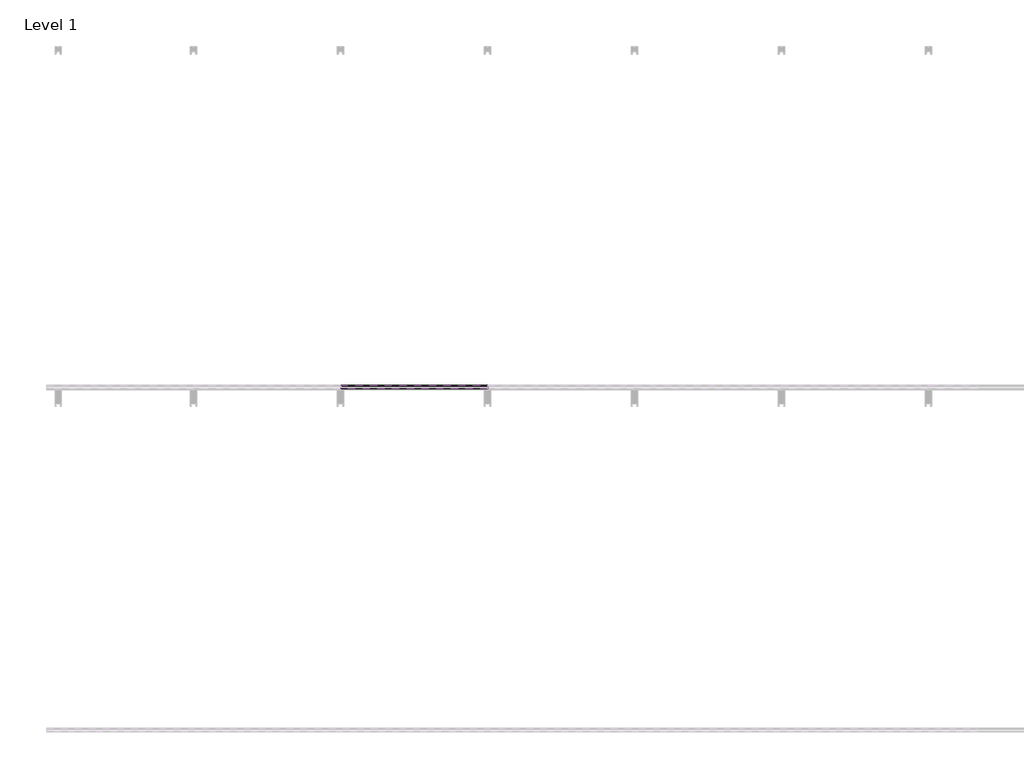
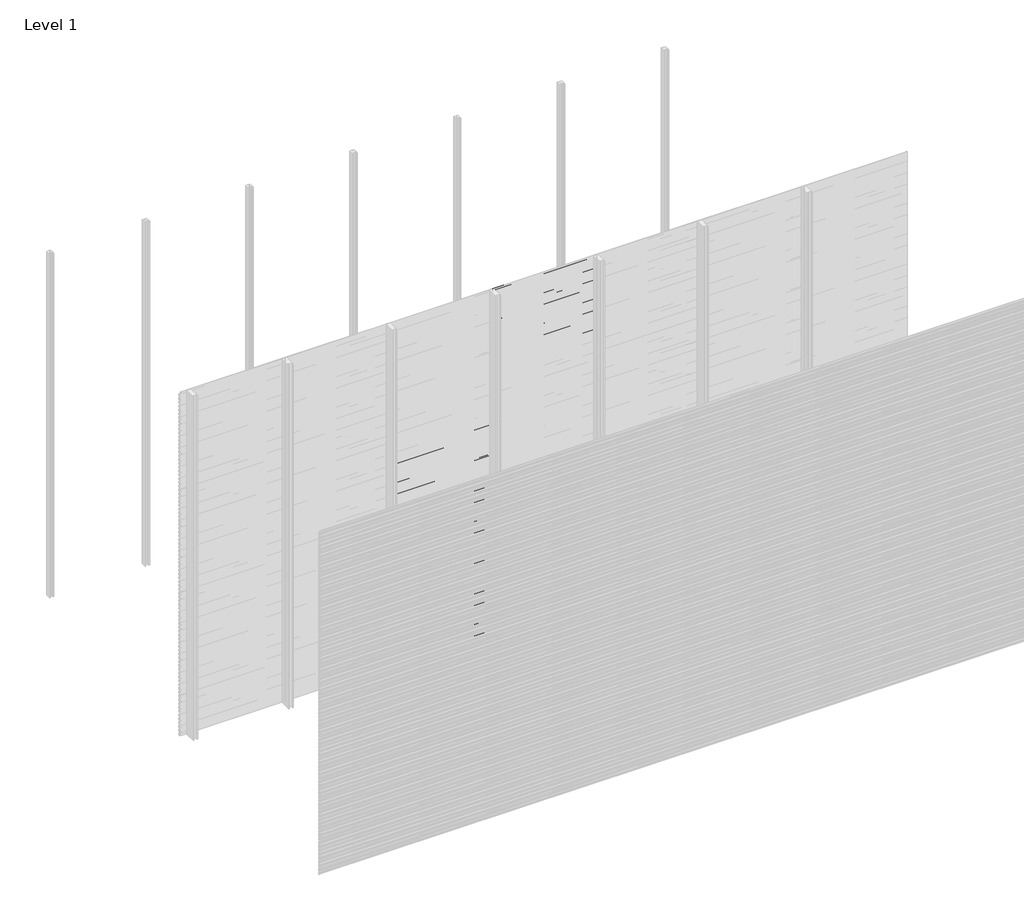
# One storey, part 64 of 96: 77 proxies.
"""IFC4 building model written with IfcOpenShell, lengths in millimetres."""

from ifc_helpers import new_model, si_unit, frame, origin, place, context, project, spatial, polyline, outline, extrude, element, save

model = new_model("IFC4")

# Units and contexts
model_context = context("Model", 3, world=origin())
ifc_project = project(units=[si_unit("LENGTHUNIT", "METRE", prefix="MILLI")], contexts=[model_context])

# Site, building, storey
site = spatial("IfcSite", under=ifc_project)
building = spatial("IfcBuilding", under=site)
storey = spatial("IfcBuildingStorey", under=building, Name="Level 1", Elevation=0.0)

# Proxies
placement = place(None, origin())
element("IfcBuildingElementProxy", 1, Name="Wall Sweeps", at=placement, inside=storey, context=model_context, shape_type="SweptSolid", body=[
    extrude(outline(polyline([(-17977.6, 1806.2655033), (-17977.6, 1791.9779188), (-17982.4114965, 1789.2), (-17982.4114965, 1790.4701706), (-17978.85, 1792.5264016), (-17978.85, 1805.5437382), (-17998.0, 1816.6000799), (-17998.0, 1831.5), (-17996.75, 1831.5), (-17996.75, 1817.3217609), (-17977.6, 1806.2655033)])), frame((1714.2857143, 0.0, 0.0), z_axis=(1.0, 0.0, 0.0), x_axis=(0.0, 1.0, 0.0)), (0.0, 0.0, 1.0), 857.1428571),
])
element("IfcBuildingElementProxy", 2, Name="Wall Sweeps", at=placement, inside=storey, context=model_context, shape_type="SweptSolid", body=[
    extrude(outline(polyline([(-17977.6, 1772.9655033), (-17977.6, 1758.6779188), (-17982.4114965, 1755.9), (-17982.4114965, 1757.1701706), (-17978.85, 1759.2264016), (-17978.85, 1772.2437382), (-17998.0, 1783.3000799), (-17998.0, 1798.2), (-17996.75, 1798.2), (-17996.75, 1784.0217609), (-17977.6, 1772.9655033)])), frame((1714.2857143, 0.0, 0.0), z_axis=(1.0, 0.0, 0.0), x_axis=(0.0, 1.0, 0.0)), (0.0, 0.0, 1.0), 857.1428571),
])
element("IfcBuildingElementProxy", 3, Name="Wall Sweeps", at=placement, inside=storey, context=model_context, shape_type="SweptSolid", body=[
    extrude(outline(polyline([(-17977.6, 1739.6655033), (-17977.6, 1725.3779188), (-17982.4114965, 1722.6), (-17982.4114965, 1723.8701706), (-17978.85, 1725.9264016), (-17978.85, 1738.9437382), (-17998.0, 1750.0000799), (-17998.0, 1764.9), (-17996.75, 1764.9), (-17996.75, 1750.7217609), (-17977.6, 1739.6655033)])), frame((1714.2857143, 0.0, 0.0), z_axis=(1.0, 0.0, 0.0), x_axis=(0.0, 1.0, 0.0)), (0.0, 0.0, 1.0), 857.1428571),
])
element("IfcBuildingElementProxy", 4, Name="Wall Sweeps", at=placement, inside=storey, context=model_context, shape_type="SweptSolid", body=[
    extrude(outline(polyline([(-17977.6, 1706.3655033), (-17977.6, 1692.0779188), (-17982.4114965, 1689.3), (-17982.4114965, 1690.5701706), (-17978.85, 1692.6264016), (-17978.85, 1705.6437382), (-17998.0, 1716.7000799), (-17998.0, 1731.6), (-17996.75, 1731.6), (-17996.75, 1717.4217609), (-17977.6, 1706.3655033)])), frame((1714.2857143, 0.0, 0.0), z_axis=(1.0, 0.0, 0.0), x_axis=(0.0, 1.0, 0.0)), (0.0, 0.0, 1.0), 857.1428571),
])
element("IfcBuildingElementProxy", 5, Name="Wall Sweeps", at=placement, inside=storey, context=model_context, shape_type="SweptSolid", body=[
    extrude(outline(polyline([(-17977.6, 1673.0655033), (-17977.6, 1658.7779188), (-17982.4114965, 1656.0), (-17982.4114965, 1657.2701706), (-17978.85, 1659.3264016), (-17978.85, 1672.3437382), (-17998.0, 1683.4000799), (-17998.0, 1698.3), (-17996.75, 1698.3), (-17996.75, 1684.1217609), (-17977.6, 1673.0655033)])), frame((1714.2857143, 0.0, 0.0), z_axis=(1.0, 0.0, 0.0), x_axis=(0.0, 1.0, 0.0)), (0.0, 0.0, 1.0), 857.1428571),
])
element("IfcBuildingElementProxy", 6, Name="Wall Sweeps", at=placement, inside=storey, context=model_context, shape_type="SweptSolid", body=[
    extrude(outline(polyline([(-17977.6, 1639.7655033), (-17977.6, 1625.4779188), (-17982.4114965, 1622.7), (-17982.4114965, 1623.9701706), (-17978.85, 1626.0264016), (-17978.85, 1639.0437382), (-17998.0, 1650.1000799), (-17998.0, 1665.0), (-17996.75, 1665.0), (-17996.75, 1650.8217609), (-17977.6, 1639.7655033)])), frame((1714.2857143, 0.0, 0.0), z_axis=(1.0, 0.0, 0.0), x_axis=(0.0, 1.0, 0.0)), (0.0, 0.0, 1.0), 857.1428571),
])
element("IfcBuildingElementProxy", 7, Name="Wall Sweeps", at=placement, inside=storey, context=model_context, shape_type="SweptSolid", body=[
    extrude(outline(polyline([(-17977.6, 1606.4655033), (-17977.6, 1592.1779188), (-17982.4114965, 1589.4), (-17982.4114965, 1590.6701706), (-17978.85, 1592.7264016), (-17978.85, 1605.7437382), (-17998.0, 1616.8000799), (-17998.0, 1631.7), (-17996.75, 1631.7), (-17996.75, 1617.5217609), (-17977.6, 1606.4655033)])), frame((1714.2857143, 0.0, 0.0), z_axis=(1.0, 0.0, 0.0), x_axis=(0.0, 1.0, 0.0)), (0.0, 0.0, 1.0), 857.1428571),
])
element("IfcBuildingElementProxy", 8, Name="Wall Sweeps", at=placement, inside=storey, context=model_context, shape_type="SweptSolid", body=[
    extrude(outline(polyline([(-17977.6, 1573.1655033), (-17977.6, 1558.8779188), (-17982.4114965, 1556.1), (-17982.4114965, 1557.3701706), (-17978.85, 1559.4264016), (-17978.85, 1572.4437382), (-17998.0, 1583.5000799), (-17998.0, 1598.4), (-17996.75, 1598.4), (-17996.75, 1584.2217609), (-17977.6, 1573.1655033)])), frame((1714.2857143, 0.0, 0.0), z_axis=(1.0, 0.0, 0.0), x_axis=(0.0, 1.0, 0.0)), (0.0, 0.0, 1.0), 857.1428571),
])
element("IfcBuildingElementProxy", 9, Name="Wall Sweeps", at=placement, inside=storey, context=model_context, shape_type="SweptSolid", body=[
    extrude(outline(polyline([(-17977.6, 1539.8655033), (-17977.6, 1525.5779188), (-17982.4114965, 1522.8), (-17982.4114965, 1524.0701706), (-17978.85, 1526.1264016), (-17978.85, 1539.1437382), (-17998.0, 1550.2000799), (-17998.0, 1565.1), (-17996.75, 1565.1), (-17996.75, 1550.9217609), (-17977.6, 1539.8655033)])), frame((1714.2857143, 0.0, 0.0), z_axis=(1.0, 0.0, 0.0), x_axis=(0.0, 1.0, 0.0)), (0.0, 0.0, 1.0), 857.1428571),
])
element("IfcBuildingElementProxy", 10, Name="Wall Sweeps", at=placement, inside=storey, context=model_context, shape_type="SweptSolid", body=[
    extrude(outline(polyline([(-17977.6, 1506.5655033), (-17977.6, 1492.2779188), (-17982.4114965, 1489.5), (-17982.4114965, 1490.7701706), (-17978.85, 1492.8264016), (-17978.85, 1505.8437382), (-17998.0, 1516.9000799), (-17998.0, 1531.8), (-17996.75, 1531.8), (-17996.75, 1517.6217609), (-17977.6, 1506.5655033)])), frame((1714.2857143, 0.0, 0.0), z_axis=(1.0, 0.0, 0.0), x_axis=(0.0, 1.0, 0.0)), (0.0, 0.0, 1.0), 857.1428571),
])
element("IfcBuildingElementProxy", 11, Name="Wall Sweeps", at=placement, inside=storey, context=model_context, shape_type="SweptSolid", body=[
    extrude(outline(polyline([(-17977.6, 1473.2655033), (-17977.6, 1458.9779188), (-17982.4114965, 1456.2), (-17982.4114965, 1457.4701706), (-17978.85, 1459.5264016), (-17978.85, 1472.5437382), (-17998.0, 1483.6000799), (-17998.0, 1498.5), (-17996.75, 1498.5), (-17996.75, 1484.3217609), (-17977.6, 1473.2655033)])), frame((1714.2857143, 0.0, 0.0), z_axis=(1.0, 0.0, 0.0), x_axis=(0.0, 1.0, 0.0)), (0.0, 0.0, 1.0), 857.1428571),
])
element("IfcBuildingElementProxy", 12, Name="Wall Sweeps", at=placement, inside=storey, context=model_context, shape_type="SweptSolid", body=[
    extrude(outline(polyline([(-17977.6, 1439.9655033), (-17977.6, 1425.6779188), (-17982.4114965, 1422.9), (-17982.4114965, 1424.1701706), (-17978.85, 1426.2264016), (-17978.85, 1439.2437382), (-17998.0, 1450.3000799), (-17998.0, 1465.2), (-17996.75, 1465.2), (-17996.75, 1451.0217609), (-17977.6, 1439.9655033)])), frame((1714.2857143, 0.0, 0.0), z_axis=(1.0, 0.0, 0.0), x_axis=(0.0, 1.0, 0.0)), (0.0, 0.0, 1.0), 857.1428571),
])
element("IfcBuildingElementProxy", 13, Name="Wall Sweeps", at=placement, inside=storey, context=model_context, shape_type="SweptSolid", body=[
    extrude(outline(polyline([(-17977.6, 1406.6655033), (-17977.6, 1392.3779188), (-17982.4114965, 1389.6), (-17982.4114965, 1390.8701706), (-17978.85, 1392.9264016), (-17978.85, 1405.9437382), (-17998.0, 1417.0000799), (-17998.0, 1431.9), (-17996.75, 1431.9), (-17996.75, 1417.7217609), (-17977.6, 1406.6655033)])), frame((1714.2857143, 0.0, 0.0), z_axis=(1.0, 0.0, 0.0), x_axis=(0.0, 1.0, 0.0)), (0.0, 0.0, 1.0), 857.1428571),
])
element("IfcBuildingElementProxy", 14, Name="Wall Sweeps", at=placement, inside=storey, context=model_context, shape_type="SweptSolid", body=[
    extrude(outline(polyline([(-17977.6, 1373.3655033), (-17977.6, 1359.0779188), (-17982.4114965, 1356.3), (-17982.4114965, 1357.5701706), (-17978.85, 1359.6264016), (-17978.85, 1372.6437382), (-17998.0, 1383.7000799), (-17998.0, 1398.6), (-17996.75, 1398.6), (-17996.75, 1384.4217609), (-17977.6, 1373.3655033)])), frame((1714.2857143, 0.0, 0.0), z_axis=(1.0, 0.0, 0.0), x_axis=(0.0, 1.0, 0.0)), (0.0, 0.0, 1.0), 857.1428571),
])
element("IfcBuildingElementProxy", 15, Name="Wall Sweeps", at=placement, inside=storey, context=model_context, shape_type="SweptSolid", body=[
    extrude(outline(polyline([(-17977.6, 1340.0655033), (-17977.6, 1325.7779188), (-17982.4114965, 1323.0), (-17982.4114965, 1324.2701706), (-17978.85, 1326.3264016), (-17978.85, 1339.3437382), (-17998.0, 1350.4000799), (-17998.0, 1365.3), (-17996.75, 1365.3), (-17996.75, 1351.1217609), (-17977.6, 1340.0655033)])), frame((1714.2857143, 0.0, 0.0), z_axis=(1.0, 0.0, 0.0), x_axis=(0.0, 1.0, 0.0)), (0.0, 0.0, 1.0), 857.1428571),
])
element("IfcBuildingElementProxy", 16, Name="Wall Sweeps", at=placement, inside=storey, context=model_context, shape_type="SweptSolid", body=[
    extrude(outline(polyline([(-17977.6, 1306.7655033), (-17977.6, 1292.4779188), (-17982.4114965, 1289.7), (-17982.4114965, 1290.9701706), (-17978.85, 1293.0264016), (-17978.85, 1306.0437382), (-17998.0, 1317.1000799), (-17998.0, 1332.0), (-17996.75, 1332.0), (-17996.75, 1317.8217609), (-17977.6, 1306.7655033)])), frame((1714.2857143, 0.0, 0.0), z_axis=(1.0, 0.0, 0.0), x_axis=(0.0, 1.0, 0.0)), (0.0, 0.0, 1.0), 857.1428571),
])
element("IfcBuildingElementProxy", 17, Name="Wall Sweeps", at=placement, inside=storey, context=model_context, shape_type="SweptSolid", body=[
    extrude(outline(polyline([(-17977.6, 1273.4655033), (-17977.6, 1259.1779188), (-17982.4114965, 1256.4), (-17982.4114965, 1257.6701706), (-17978.85, 1259.7264016), (-17978.85, 1272.7437382), (-17998.0, 1283.8000799), (-17998.0, 1298.7), (-17996.75, 1298.7), (-17996.75, 1284.5217609), (-17977.6, 1273.4655033)])), frame((1714.2857143, 0.0, 0.0), z_axis=(1.0, 0.0, 0.0), x_axis=(0.0, 1.0, 0.0)), (0.0, 0.0, 1.0), 857.1428571),
])
element("IfcBuildingElementProxy", 18, Name="Wall Sweeps", at=placement, inside=storey, context=model_context, shape_type="SweptSolid", body=[
    extrude(outline(polyline([(-17977.6, 1240.1655033), (-17977.6, 1225.8779188), (-17982.4114965, 1223.1), (-17982.4114965, 1224.3701706), (-17978.85, 1226.4264016), (-17978.85, 1239.4437382), (-17998.0, 1250.5000799), (-17998.0, 1265.4), (-17996.75, 1265.4), (-17996.75, 1251.2217609), (-17977.6, 1240.1655033)])), frame((1714.2857143, 0.0, 0.0), z_axis=(1.0, 0.0, 0.0), x_axis=(0.0, 1.0, 0.0)), (0.0, 0.0, 1.0), 857.1428571),
])
element("IfcBuildingElementProxy", 19, Name="Wall Sweeps", at=placement, inside=storey, context=model_context, shape_type="SweptSolid", body=[
    extrude(outline(polyline([(-17977.6, 1206.8655033), (-17977.6, 1192.5779188), (-17982.4114965, 1189.8), (-17982.4114965, 1191.0701706), (-17978.85, 1193.1264016), (-17978.85, 1206.1437382), (-17998.0, 1217.2000799), (-17998.0, 1232.1), (-17996.75, 1232.1), (-17996.75, 1217.9217609), (-17977.6, 1206.8655033)])), frame((1714.2857143, 0.0, 0.0), z_axis=(1.0, 0.0, 0.0), x_axis=(0.0, 1.0, 0.0)), (0.0, 0.0, 1.0), 857.1428571),
])
element("IfcBuildingElementProxy", 20, Name="Wall Sweeps", at=placement, inside=storey, context=model_context, shape_type="SweptSolid", body=[
    extrude(outline(polyline([(-17977.6, 1173.5655033), (-17977.6, 1159.2779188), (-17982.4114965, 1156.5), (-17982.4114965, 1157.7701706), (-17978.85, 1159.8264016), (-17978.85, 1172.8437382), (-17998.0, 1183.9000799), (-17998.0, 1198.8), (-17996.75, 1198.8), (-17996.75, 1184.6217609), (-17977.6, 1173.5655033)])), frame((1714.2857143, 0.0, 0.0), z_axis=(1.0, 0.0, 0.0), x_axis=(0.0, 1.0, 0.0)), (0.0, 0.0, 1.0), 857.1428571),
])
element("IfcBuildingElementProxy", 21, Name="Wall Sweeps", at=placement, inside=storey, context=model_context, shape_type="SweptSolid", body=[
    extrude(outline(polyline([(-17977.6, 1140.2655033), (-17977.6, 1125.9779188), (-17982.4114965, 1123.2), (-17982.4114965, 1124.4701706), (-17978.85, 1126.5264016), (-17978.85, 1139.5437382), (-17998.0, 1150.6000799), (-17998.0, 1165.5), (-17996.75, 1165.5), (-17996.75, 1151.3217609), (-17977.6, 1140.2655033)])), frame((1714.2857143, 0.0, 0.0), z_axis=(1.0, 0.0, 0.0), x_axis=(0.0, 1.0, 0.0)), (0.0, 0.0, 1.0), 857.1428571),
])
element("IfcBuildingElementProxy", 22, Name="Wall Sweeps", at=placement, inside=storey, context=model_context, shape_type="SweptSolid", body=[
    extrude(outline(polyline([(-17977.6, 1106.9655033), (-17977.6, 1092.6779188), (-17982.4114965, 1089.9), (-17982.4114965, 1091.1701706), (-17978.85, 1093.2264016), (-17978.85, 1106.2437382), (-17998.0, 1117.3000799), (-17998.0, 1132.2), (-17996.75, 1132.2), (-17996.75, 1118.0217609), (-17977.6, 1106.9655033)])), frame((1714.2857143, 0.0, 0.0), z_axis=(1.0, 0.0, 0.0), x_axis=(0.0, 1.0, 0.0)), (0.0, 0.0, 1.0), 857.1428571),
])
element("IfcBuildingElementProxy", 23, Name="Wall Sweeps", at=placement, inside=storey, context=model_context, shape_type="SweptSolid", body=[
    extrude(outline(polyline([(-17977.6, 1073.6655033), (-17977.6, 1059.3779188), (-17982.4114965, 1056.6), (-17982.4114965, 1057.8701706), (-17978.85, 1059.9264016), (-17978.85, 1072.9437382), (-17998.0, 1084.0000799), (-17998.0, 1098.9), (-17996.75, 1098.9), (-17996.75, 1084.7217609), (-17977.6, 1073.6655033)])), frame((1714.2857143, 0.0, 0.0), z_axis=(1.0, 0.0, 0.0), x_axis=(0.0, 1.0, 0.0)), (0.0, 0.0, 1.0), 857.1428571),
])
element("IfcBuildingElementProxy", 24, Name="Wall Sweeps", at=placement, inside=storey, context=model_context, shape_type="SweptSolid", body=[
    extrude(outline(polyline([(-17977.6, 1040.3655033), (-17977.6, 1026.0779188), (-17982.4114965, 1023.3), (-17982.4114965, 1024.5701706), (-17978.85, 1026.6264016), (-17978.85, 1039.6437382), (-17998.0, 1050.7000799), (-17998.0, 1065.6), (-17996.75, 1065.6), (-17996.75, 1051.4217609), (-17977.6, 1040.3655033)])), frame((1714.2857143, 0.0, 0.0), z_axis=(1.0, 0.0, 0.0), x_axis=(0.0, 1.0, 0.0)), (0.0, 0.0, 1.0), 857.1428571),
])
element("IfcBuildingElementProxy", 25, Name="Wall Sweeps", at=placement, inside=storey, context=model_context, shape_type="SweptSolid", body=[
    extrude(outline(polyline([(-17977.6, 1007.0655033), (-17977.6, 992.7779188), (-17982.4114965, 990.0), (-17982.4114965, 991.2701706), (-17978.85, 993.3264016), (-17978.85, 1006.3437382), (-17998.0, 1017.4000799), (-17998.0, 1032.3), (-17996.75, 1032.3), (-17996.75, 1018.1217609), (-17977.6, 1007.0655033)])), frame((1714.2857143, 0.0, 0.0), z_axis=(1.0, 0.0, 0.0), x_axis=(0.0, 1.0, 0.0)), (0.0, 0.0, 1.0), 857.1428571),
])
element("IfcBuildingElementProxy", 26, Name="Wall Sweeps", at=placement, inside=storey, context=model_context, shape_type="SweptSolid", body=[
    extrude(outline(polyline([(-17977.6, 973.7655033), (-17977.6, 959.4779188), (-17982.4114965, 956.7), (-17982.4114965, 957.9701706), (-17978.85, 960.0264016), (-17978.85, 973.0437382), (-17998.0, 984.1000799), (-17998.0, 999.0), (-17996.75, 999.0), (-17996.75, 984.8217609), (-17977.6, 973.7655033)])), frame((1714.2857143, 0.0, 0.0), z_axis=(1.0, 0.0, 0.0), x_axis=(0.0, 1.0, 0.0)), (0.0, 0.0, 1.0), 857.1428571),
])
element("IfcBuildingElementProxy", 27, Name="Wall Sweeps", at=placement, inside=storey, context=model_context, shape_type="SweptSolid", body=[
    extrude(outline(polyline([(-17977.6, 940.4655033), (-17977.6, 926.1779188), (-17982.4114965, 923.4), (-17982.4114965, 924.6701706), (-17978.85, 926.7264016), (-17978.85, 939.7437382), (-17998.0, 950.8000799), (-17998.0, 965.7), (-17996.75, 965.7), (-17996.75, 951.5217609), (-17977.6, 940.4655033)])), frame((1714.2857143, 0.0, 0.0), z_axis=(1.0, 0.0, 0.0), x_axis=(0.0, 1.0, 0.0)), (0.0, 0.0, 1.0), 857.1428571),
])
element("IfcBuildingElementProxy", 28, Name="Wall Sweeps", at=placement, inside=storey, context=model_context, shape_type="SweptSolid", body=[
    extrude(outline(polyline([(-17977.6, 907.1655033), (-17977.6, 892.8779188), (-17982.4114965, 890.1), (-17982.4114965, 891.3701706), (-17978.85, 893.4264016), (-17978.85, 906.4437382), (-17998.0, 917.5000799), (-17998.0, 932.4), (-17996.75, 932.4), (-17996.75, 918.2217609), (-17977.6, 907.1655033)])), frame((1714.2857143, 0.0, 0.0), z_axis=(1.0, 0.0, 0.0), x_axis=(0.0, 1.0, 0.0)), (0.0, 0.0, 1.0), 857.1428571),
])
element("IfcBuildingElementProxy", 29, Name="Wall Sweeps", at=placement, inside=storey, context=model_context, shape_type="SweptSolid", body=[
    extrude(outline(polyline([(-17977.6, 873.8655033), (-17977.6, 859.5779188), (-17982.4114965, 856.8), (-17982.4114965, 858.0701706), (-17978.85, 860.1264016), (-17978.85, 873.1437382), (-17998.0, 884.2000799), (-17998.0, 899.1), (-17996.75, 899.1), (-17996.75, 884.9217609), (-17977.6, 873.8655033)])), frame((1714.2857143, 0.0, 0.0), z_axis=(1.0, 0.0, 0.0), x_axis=(0.0, 1.0, 0.0)), (0.0, 0.0, 1.0), 857.1428571),
])
element("IfcBuildingElementProxy", 30, Name="Wall Sweeps", at=placement, inside=storey, context=model_context, shape_type="SweptSolid", body=[
    extrude(outline(polyline([(-17977.6, 840.5655033), (-17977.6, 826.2779188), (-17982.4114965, 823.5), (-17982.4114965, 824.7701706), (-17978.85, 826.8264016), (-17978.85, 839.8437382), (-17998.0, 850.9000799), (-17998.0, 865.8), (-17996.75, 865.8), (-17996.75, 851.6217609), (-17977.6, 840.5655033)])), frame((1714.2857143, 0.0, 0.0), z_axis=(1.0, 0.0, 0.0), x_axis=(0.0, 1.0, 0.0)), (0.0, 0.0, 1.0), 857.1428571),
])
element("IfcBuildingElementProxy", 31, Name="Wall Sweeps", at=placement, inside=storey, context=model_context, shape_type="SweptSolid", body=[
    extrude(outline(polyline([(-17977.6, 807.2655033), (-17977.6, 792.9779188), (-17982.4114965, 790.2), (-17982.4114965, 791.4701706), (-17978.85, 793.5264016), (-17978.85, 806.5437382), (-17998.0, 817.6000799), (-17998.0, 832.5), (-17996.75, 832.5), (-17996.75, 818.3217609), (-17977.6, 807.2655033)])), frame((1714.2857143, 0.0, 0.0), z_axis=(1.0, 0.0, 0.0), x_axis=(0.0, 1.0, 0.0)), (0.0, 0.0, 1.0), 857.1428571),
])
element("IfcBuildingElementProxy", 32, Name="Wall Sweeps", at=placement, inside=storey, context=model_context, shape_type="SweptSolid", body=[
    extrude(outline(polyline([(-17977.6, 773.9655033), (-17977.6, 759.6779188), (-17982.4114965, 756.9), (-17982.4114965, 758.1701706), (-17978.85, 760.2264016), (-17978.85, 773.2437382), (-17998.0, 784.3000799), (-17998.0, 799.2), (-17996.75, 799.2), (-17996.75, 785.0217609), (-17977.6, 773.9655033)])), frame((1714.2857143, 0.0, 0.0), z_axis=(1.0, 0.0, 0.0), x_axis=(0.0, 1.0, 0.0)), (0.0, 0.0, 1.0), 857.1428571),
])
element("IfcBuildingElementProxy", 33, Name="Wall Sweeps", at=placement, inside=storey, context=model_context, shape_type="SweptSolid", body=[
    extrude(outline(polyline([(-17977.6, 740.6655033), (-17977.6, 726.3779188), (-17982.4114965, 723.6), (-17982.4114965, 724.8701706), (-17978.85, 726.9264016), (-17978.85, 739.9437382), (-17998.0, 751.0000799), (-17998.0, 765.9), (-17996.75, 765.9), (-17996.75, 751.7217609), (-17977.6, 740.6655033)])), frame((1714.2857143, 0.0, 0.0), z_axis=(1.0, 0.0, 0.0), x_axis=(0.0, 1.0, 0.0)), (0.0, 0.0, 1.0), 857.1428571),
])
element("IfcBuildingElementProxy", 34, Name="Wall Sweeps", at=placement, inside=storey, context=model_context, shape_type="SweptSolid", body=[
    extrude(outline(polyline([(-17977.6, 707.3655033), (-17977.6, 693.0779188), (-17982.4114965, 690.3), (-17982.4114965, 691.5701706), (-17978.85, 693.6264016), (-17978.85, 706.6437382), (-17998.0, 717.7000799), (-17998.0, 732.6), (-17996.75, 732.6), (-17996.75, 718.4217609), (-17977.6, 707.3655033)])), frame((1714.2857143, 0.0, 0.0), z_axis=(1.0, 0.0, 0.0), x_axis=(0.0, 1.0, 0.0)), (0.0, 0.0, 1.0), 857.1428571),
])
element("IfcBuildingElementProxy", 35, Name="Wall Sweeps", at=placement, inside=storey, context=model_context, shape_type="SweptSolid", body=[
    extrude(outline(polyline([(-17977.6, 674.0655033), (-17977.6, 659.7779188), (-17982.4114965, 657.0), (-17982.4114965, 658.2701706), (-17978.85, 660.3264016), (-17978.85, 673.3437382), (-17998.0, 684.4000799), (-17998.0, 699.3), (-17996.75, 699.3), (-17996.75, 685.1217609), (-17977.6, 674.0655033)])), frame((1714.2857143, 0.0, 0.0), z_axis=(1.0, 0.0, 0.0), x_axis=(0.0, 1.0, 0.0)), (0.0, 0.0, 1.0), 857.1428571),
])
element("IfcBuildingElementProxy", 36, Name="Wall Sweeps", at=placement, inside=storey, context=model_context, shape_type="SweptSolid", body=[
    extrude(outline(polyline([(-17977.6, 640.7655033), (-17977.6, 626.4779188), (-17982.4114965, 623.7), (-17982.4114965, 624.9701706), (-17978.85, 627.0264016), (-17978.85, 640.0437382), (-17998.0, 651.1000799), (-17998.0, 666.0), (-17996.75, 666.0), (-17996.75, 651.8217609), (-17977.6, 640.7655033)])), frame((1714.2857143, 0.0, 0.0), z_axis=(1.0, 0.0, 0.0), x_axis=(0.0, 1.0, 0.0)), (0.0, 0.0, 1.0), 857.1428571),
])
element("IfcBuildingElementProxy", 37, Name="Wall Sweeps", at=placement, inside=storey, context=model_context, shape_type="SweptSolid", body=[
    extrude(outline(polyline([(-17977.6, 607.4655033), (-17977.6, 593.1779188), (-17982.4114965, 590.4), (-17982.4114965, 591.6701706), (-17978.85, 593.7264016), (-17978.85, 606.7437382), (-17998.0, 617.8000799), (-17998.0, 632.7), (-17996.75, 632.7), (-17996.75, 618.5217609), (-17977.6, 607.4655033)])), frame((1714.2857143, 0.0, 0.0), z_axis=(1.0, 0.0, 0.0), x_axis=(0.0, 1.0, 0.0)), (0.0, 0.0, 1.0), 857.1428571),
])
element("IfcBuildingElementProxy", 38, Name="Wall Sweeps", at=placement, inside=storey, context=model_context, shape_type="SweptSolid", body=[
    extrude(outline(polyline([(-17977.6, 574.1655033), (-17977.6, 559.8779188), (-17982.4114965, 557.1), (-17982.4114965, 558.3701706), (-17978.85, 560.4264016), (-17978.85, 573.4437382), (-17998.0, 584.5000799), (-17998.0, 599.4), (-17996.75, 599.4), (-17996.75, 585.2217609), (-17977.6, 574.1655033)])), frame((1714.2857143, 0.0, 0.0), z_axis=(1.0, 0.0, 0.0), x_axis=(0.0, 1.0, 0.0)), (0.0, 0.0, 1.0), 857.1428571),
])
element("IfcBuildingElementProxy", 39, Name="Wall Sweeps", at=placement, inside=storey, context=model_context, shape_type="SweptSolid", body=[
    extrude(outline(polyline([(-17977.6, 540.8655033), (-17977.6, 526.5779188), (-17982.4114965, 523.8), (-17982.4114965, 525.0701706), (-17978.85, 527.1264016), (-17978.85, 540.1437382), (-17998.0, 551.2000799), (-17998.0, 566.1), (-17996.75, 566.1), (-17996.75, 551.9217609), (-17977.6, 540.8655033)])), frame((1714.2857143, 0.0, 0.0), z_axis=(1.0, 0.0, 0.0), x_axis=(0.0, 1.0, 0.0)), (0.0, 0.0, 1.0), 857.1428571),
])
element("IfcBuildingElementProxy", 40, Name="Wall Sweeps", at=placement, inside=storey, context=model_context, shape_type="SweptSolid", body=[
    extrude(outline(polyline([(-17977.6, 507.5655033), (-17977.6, 493.2779188), (-17982.4114965, 490.5), (-17982.4114965, 491.7701706), (-17978.85, 493.8264016), (-17978.85, 506.8437382), (-17998.0, 517.9000799), (-17998.0, 532.8), (-17996.75, 532.8), (-17996.75, 518.6217609), (-17977.6, 507.5655033)])), frame((1714.2857143, 0.0, 0.0), z_axis=(1.0, 0.0, 0.0), x_axis=(0.0, 1.0, 0.0)), (0.0, 0.0, 1.0), 857.1428571),
])
element("IfcBuildingElementProxy", 41, Name="Wall Sweeps", at=placement, inside=storey, context=model_context, shape_type="SweptSolid", body=[
    extrude(outline(polyline([(-17977.6, 474.2655033), (-17977.6, 459.9779188), (-17982.4114965, 457.2), (-17982.4114965, 458.4701706), (-17978.85, 460.5264016), (-17978.85, 473.5437382), (-17998.0, 484.6000799), (-17998.0, 499.5), (-17996.75, 499.5), (-17996.75, 485.3217609), (-17977.6, 474.2655033)])), frame((1714.2857143, 0.0, 0.0), z_axis=(1.0, 0.0, 0.0), x_axis=(0.0, 1.0, 0.0)), (0.0, 0.0, 1.0), 857.1428571),
])
element("IfcBuildingElementProxy", 42, Name="Wall Sweeps", at=placement, inside=storey, context=model_context, shape_type="SweptSolid", body=[
    extrude(outline(polyline([(-17977.6, 440.9655033), (-17977.6, 426.6779188), (-17982.4114965, 423.9), (-17982.4114965, 425.1701706), (-17978.85, 427.2264016), (-17978.85, 440.2437382), (-17998.0, 451.3000799), (-17998.0, 466.2), (-17996.75, 466.2), (-17996.75, 452.0217609), (-17977.6, 440.9655033)])), frame((1714.2857143, 0.0, 0.0), z_axis=(1.0, 0.0, 0.0), x_axis=(0.0, 1.0, 0.0)), (0.0, 0.0, 1.0), 857.1428571),
])
element("IfcBuildingElementProxy", 43, Name="Wall Sweeps", at=placement, inside=storey, context=model_context, shape_type="SweptSolid", body=[
    extrude(outline(polyline([(-17977.6, 407.6655033), (-17977.6, 393.3779188), (-17982.4114965, 390.6), (-17982.4114965, 391.8701706), (-17978.85, 393.9264016), (-17978.85, 406.9437382), (-17998.0, 418.0000799), (-17998.0, 432.9), (-17996.75, 432.9), (-17996.75, 418.7217609), (-17977.6, 407.6655033)])), frame((1714.2857143, 0.0, 0.0), z_axis=(1.0, 0.0, 0.0), x_axis=(0.0, 1.0, 0.0)), (0.0, 0.0, 1.0), 857.1428571),
])
element("IfcBuildingElementProxy", 44, Name="Wall Sweeps", at=placement, inside=storey, context=model_context, shape_type="SweptSolid", body=[
    extrude(outline(polyline([(-17977.6, 374.3655033), (-17977.6, 360.0779188), (-17982.4114965, 357.3), (-17982.4114965, 358.5701706), (-17978.85, 360.6264016), (-17978.85, 373.6437382), (-17998.0, 384.7000799), (-17998.0, 399.6), (-17996.75, 399.6), (-17996.75, 385.4217609), (-17977.6, 374.3655033)])), frame((1714.2857143, 0.0, 0.0), z_axis=(1.0, 0.0, 0.0), x_axis=(0.0, 1.0, 0.0)), (0.0, 0.0, 1.0), 857.1428571),
])
element("IfcBuildingElementProxy", 45, Name="Wall Sweeps", at=placement, inside=storey, context=model_context, shape_type="SweptSolid", body=[
    extrude(outline(polyline([(-17977.6, 341.0655033), (-17977.6, 326.7779188), (-17982.4114965, 324.0), (-17982.4114965, 325.2701706), (-17978.85, 327.3264016), (-17978.85, 340.3437382), (-17998.0, 351.4000799), (-17998.0, 366.3), (-17996.75, 366.3), (-17996.75, 352.1217609), (-17977.6, 341.0655033)])), frame((1714.2857143, 0.0, 0.0), z_axis=(1.0, 0.0, 0.0), x_axis=(0.0, 1.0, 0.0)), (0.0, 0.0, 1.0), 857.1428571),
])
element("IfcBuildingElementProxy", 46, Name="Wall Sweeps", at=placement, inside=storey, context=model_context, shape_type="SweptSolid", body=[
    extrude(outline(polyline([(-17977.6, 307.7655033), (-17977.6, 293.4779188), (-17982.4114965, 290.7), (-17982.4114965, 291.9701706), (-17978.85, 294.0264016), (-17978.85, 307.0437382), (-17998.0, 318.1000799), (-17998.0, 333.0), (-17996.75, 333.0), (-17996.75, 318.8217609), (-17977.6, 307.7655033)])), frame((1714.2857143, 0.0, 0.0), z_axis=(1.0, 0.0, 0.0), x_axis=(0.0, 1.0, 0.0)), (0.0, 0.0, 1.0), 857.1428571),
])
element("IfcBuildingElementProxy", 47, Name="Wall Sweeps", at=placement, inside=storey, context=model_context, shape_type="SweptSolid", body=[
    extrude(outline(polyline([(-17977.6, 274.4655033), (-17977.6, 260.1779188), (-17982.4114965, 257.4), (-17982.4114965, 258.6701706), (-17978.85, 260.7264016), (-17978.85, 273.7437382), (-17998.0, 284.8000799), (-17998.0, 299.7), (-17996.75, 299.7), (-17996.75, 285.5217609), (-17977.6, 274.4655033)])), frame((1714.2857143, 0.0, 0.0), z_axis=(1.0, 0.0, 0.0), x_axis=(0.0, 1.0, 0.0)), (0.0, 0.0, 1.0), 857.1428571),
])
element("IfcBuildingElementProxy", 48, Name="Wall Sweeps", at=placement, inside=storey, context=model_context, shape_type="SweptSolid", body=[
    extrude(outline(polyline([(-17977.6, 241.1655033), (-17977.6, 226.8779188), (-17982.4114965, 224.1), (-17982.4114965, 225.3701706), (-17978.85, 227.4264016), (-17978.85, 240.4437382), (-17998.0, 251.5000799), (-17998.0, 266.4), (-17996.75, 266.4), (-17996.75, 252.2217609), (-17977.6, 241.1655033)])), frame((1714.2857143, 0.0, 0.0), z_axis=(1.0, 0.0, 0.0), x_axis=(0.0, 1.0, 0.0)), (0.0, 0.0, 1.0), 857.1428571),
])
element("IfcBuildingElementProxy", 49, Name="Wall Sweeps", at=placement, inside=storey, context=model_context, shape_type="SweptSolid", body=[
    extrude(outline(polyline([(-17977.6, 207.8655033), (-17977.6, 193.5779188), (-17982.4114965, 190.8), (-17982.4114965, 192.0701706), (-17978.85, 194.1264016), (-17978.85, 207.1437382), (-17998.0, 218.2000799), (-17998.0, 233.1), (-17996.75, 233.1), (-17996.75, 218.9217609), (-17977.6, 207.8655033)])), frame((1714.2857143, 0.0, 0.0), z_axis=(1.0, 0.0, 0.0), x_axis=(0.0, 1.0, 0.0)), (0.0, 0.0, 1.0), 857.1428571),
])
element("IfcBuildingElementProxy", 50, Name="Wall Sweeps", at=placement, inside=storey, context=model_context, shape_type="SweptSolid", body=[
    extrude(outline(polyline([(-17977.6, 174.5655033), (-17977.6, 160.2779188), (-17982.4114965, 157.5), (-17982.4114965, 158.7701706), (-17978.85, 160.8264016), (-17978.85, 173.8437382), (-17998.0, 184.9000799), (-17998.0, 199.8), (-17996.75, 199.8), (-17996.75, 185.6217609), (-17977.6, 174.5655033)])), frame((1714.2857143, 0.0, 0.0), z_axis=(1.0, 0.0, 0.0), x_axis=(0.0, 1.0, 0.0)), (0.0, 0.0, 1.0), 857.1428571),
])
element("IfcBuildingElementProxy", 51, Name="Wall Sweeps", at=placement, inside=storey, context=model_context, shape_type="SweptSolid", body=[
    extrude(outline(polyline([(-17977.6, 141.2655033), (-17977.6, 126.9779188), (-17982.4114965, 124.2), (-17982.4114965, 125.4701706), (-17978.85, 127.5264016), (-17978.85, 140.5437382), (-17998.0, 151.6000799), (-17998.0, 166.5), (-17996.75, 166.5), (-17996.75, 152.3217609), (-17977.6, 141.2655033)])), frame((1714.2857143, 0.0, 0.0), z_axis=(1.0, 0.0, 0.0), x_axis=(0.0, 1.0, 0.0)), (0.0, 0.0, 1.0), 857.1428571),
])
element("IfcBuildingElementProxy", 52, Name="Wall Sweeps", at=placement, inside=storey, context=model_context, shape_type="SweptSolid", body=[
    extrude(outline(polyline([(-17977.6, 107.9655033), (-17977.6, 93.6779188), (-17982.4114965, 90.9), (-17982.4114965, 92.1701706), (-17978.85, 94.2264016), (-17978.85, 107.2437382), (-17998.0, 118.3000799), (-17998.0, 133.2), (-17996.75, 133.2), (-17996.75, 119.0217609), (-17977.6, 107.9655033)])), frame((1714.2857143, 0.0, 0.0), z_axis=(1.0, 0.0, 0.0), x_axis=(0.0, 1.0, 0.0)), (0.0, 0.0, 1.0), 857.1428571),
])
element("IfcBuildingElementProxy", 53, Name="Wall Sweeps", at=placement, inside=storey, context=model_context, shape_type="SweptSolid", body=[
    extrude(outline(polyline([(-17977.6, 74.6655033), (-17977.6, 60.3779188), (-17982.4114965, 57.6), (-17982.4114965, 58.8701706), (-17978.85, 60.9264016), (-17978.85, 73.9437382), (-17998.0, 85.0000799), (-17998.0, 99.9), (-17996.75, 99.9), (-17996.75, 85.7217609), (-17977.6, 74.6655033)])), frame((1714.2857143, 0.0, 0.0), z_axis=(1.0, 0.0, 0.0), x_axis=(0.0, 1.0, 0.0)), (0.0, 0.0, 1.0), 857.1428571),
])
element("IfcBuildingElementProxy", 54, Name="Wall Sweeps", at=placement, inside=storey, context=model_context, shape_type="SweptSolid", body=[
    extrude(outline(polyline([(-17977.6, 41.3655033), (-17977.6, 27.0779188), (-17982.4114965, 24.3), (-17982.4114965, 25.5701706), (-17978.85, 27.6264016), (-17978.85, 40.6437382), (-17998.0, 51.7000799), (-17998.0, 66.6), (-17996.75, 66.6), (-17996.75, 52.4217609), (-17977.6, 41.3655033)])), frame((1714.2857143, 0.0, 0.0), z_axis=(1.0, 0.0, 0.0), x_axis=(0.0, 1.0, 0.0)), (0.0, 0.0, 1.0), 857.1428571),
])
element("IfcBuildingElementProxy", 55, Name="Wall Sweeps", at=placement, inside=storey, context=model_context, shape_type="SweptSolid", body=[
    extrude(outline(polyline([(-17977.6, 8.0655033), (-17977.6, -6.2220812), (-17982.4114965, -9.0), (-17982.4114965, -7.7298294), (-17978.85, -5.6735984), (-17978.85, 7.3437382), (-17998.0, 18.4000799), (-17998.0, 33.3), (-17996.75, 33.3), (-17996.75, 19.1217609), (-17977.6, 8.0655033)])), frame((1714.2857143, 0.0, 0.0), z_axis=(1.0, 0.0, 0.0), x_axis=(0.0, 1.0, 0.0)), (0.0, 0.0, 1.0), 857.1428571),
])
element("IfcBuildingElementProxy", 56, Name="Wall Sweeps", at=placement, inside=storey, context=model_context, shape_type="SweptSolid", body=[
    extrude(outline(polyline([(-17977.6, 2971.7655033), (-17977.6, 2957.4779188), (-17982.4114965, 2954.7), (-17982.4114965, 2955.9701706), (-17978.85, 2958.0264016), (-17978.85, 2971.0437382), (-17998.0, 2982.1000799), (-17998.0, 2997.0), (-17996.75, 2997.0), (-17996.75, 2982.8217609), (-17977.6, 2971.7655033)])), frame((2571.4285714, 0.0, 0.0), z_axis=(1.0, 0.0, 0.0), x_axis=(0.0, 1.0, 0.0)), (0.0, 0.0, 1.0), 857.1428571),
])
element("IfcBuildingElementProxy", 57, Name="Wall Sweeps", at=placement, inside=storey, context=model_context, shape_type="SweptSolid", body=[
    extrude(outline(polyline([(-17977.6, 2938.4655033), (-17977.6, 2924.1779188), (-17982.4114965, 2921.4), (-17982.4114965, 2922.6701706), (-17978.85, 2924.7264016), (-17978.85, 2937.7437382), (-17998.0, 2948.8000799), (-17998.0, 2963.7), (-17996.75, 2963.7), (-17996.75, 2949.5217609), (-17977.6, 2938.4655033)])), frame((2571.4285714, 0.0, 0.0), z_axis=(1.0, 0.0, 0.0), x_axis=(0.0, 1.0, 0.0)), (0.0, 0.0, 1.0), 857.1428571),
])
element("IfcBuildingElementProxy", 58, Name="Wall Sweeps", at=placement, inside=storey, context=model_context, shape_type="SweptSolid", body=[
    extrude(outline(polyline([(-17977.6, 2905.1655033), (-17977.6, 2890.8779188), (-17982.4114965, 2888.1), (-17982.4114965, 2889.3701706), (-17978.85, 2891.4264016), (-17978.85, 2904.4437382), (-17998.0, 2915.5000799), (-17998.0, 2930.4), (-17996.75, 2930.4), (-17996.75, 2916.2217609), (-17977.6, 2905.1655033)])), frame((2571.4285714, 0.0, 0.0), z_axis=(1.0, 0.0, 0.0), x_axis=(0.0, 1.0, 0.0)), (0.0, 0.0, 1.0), 857.1428571),
])
element("IfcBuildingElementProxy", 59, Name="Wall Sweeps", at=placement, inside=storey, context=model_context, shape_type="SweptSolid", body=[
    extrude(outline(polyline([(-17977.6, 2871.8655033), (-17977.6, 2857.5779188), (-17982.4114965, 2854.8), (-17982.4114965, 2856.0701706), (-17978.85, 2858.1264016), (-17978.85, 2871.1437382), (-17998.0, 2882.2000799), (-17998.0, 2897.1), (-17996.75, 2897.1), (-17996.75, 2882.9217609), (-17977.6, 2871.8655033)])), frame((2571.4285714, 0.0, 0.0), z_axis=(1.0, 0.0, 0.0), x_axis=(0.0, 1.0, 0.0)), (0.0, 0.0, 1.0), 857.1428571),
])
element("IfcBuildingElementProxy", 60, Name="Wall Sweeps", at=placement, inside=storey, context=model_context, shape_type="SweptSolid", body=[
    extrude(outline(polyline([(-17977.6, 2838.5655033), (-17977.6, 2824.2779188), (-17982.4114965, 2821.5), (-17982.4114965, 2822.7701706), (-17978.85, 2824.8264016), (-17978.85, 2837.8437382), (-17998.0, 2848.9000799), (-17998.0, 2863.8), (-17996.75, 2863.8), (-17996.75, 2849.6217609), (-17977.6, 2838.5655033)])), frame((2571.4285714, 0.0, 0.0), z_axis=(1.0, 0.0, 0.0), x_axis=(0.0, 1.0, 0.0)), (0.0, 0.0, 1.0), 857.1428571),
])
element("IfcBuildingElementProxy", 61, Name="Wall Sweeps", at=placement, inside=storey, context=model_context, shape_type="SweptSolid", body=[
    extrude(outline(polyline([(-17977.6, 2805.2655033), (-17977.6, 2790.9779188), (-17982.4114965, 2788.2), (-17982.4114965, 2789.4701706), (-17978.85, 2791.5264016), (-17978.85, 2804.5437382), (-17998.0, 2815.6000799), (-17998.0, 2830.5), (-17996.75, 2830.5), (-17996.75, 2816.3217609), (-17977.6, 2805.2655033)])), frame((2571.4285714, 0.0, 0.0), z_axis=(1.0, 0.0, 0.0), x_axis=(0.0, 1.0, 0.0)), (0.0, 0.0, 1.0), 857.1428571),
])
element("IfcBuildingElementProxy", 62, Name="Wall Sweeps", at=placement, inside=storey, context=model_context, shape_type="SweptSolid", body=[
    extrude(outline(polyline([(-17977.6, 2771.9655033), (-17977.6, 2757.6779188), (-17982.4114965, 2754.9), (-17982.4114965, 2756.1701706), (-17978.85, 2758.2264016), (-17978.85, 2771.2437382), (-17998.0, 2782.3000799), (-17998.0, 2797.2), (-17996.75, 2797.2), (-17996.75, 2783.0217609), (-17977.6, 2771.9655033)])), frame((2571.4285714, 0.0, 0.0), z_axis=(1.0, 0.0, 0.0), x_axis=(0.0, 1.0, 0.0)), (0.0, 0.0, 1.0), 857.1428571),
])
element("IfcBuildingElementProxy", 63, Name="Wall Sweeps", at=placement, inside=storey, context=model_context, shape_type="SweptSolid", body=[
    extrude(outline(polyline([(-17977.6, 2738.6655033), (-17977.6, 2724.3779188), (-17982.4114965, 2721.6), (-17982.4114965, 2722.8701706), (-17978.85, 2724.9264016), (-17978.85, 2737.9437382), (-17998.0, 2749.0000799), (-17998.0, 2763.9), (-17996.75, 2763.9), (-17996.75, 2749.7217609), (-17977.6, 2738.6655033)])), frame((2571.4285714, 0.0, 0.0), z_axis=(1.0, 0.0, 0.0), x_axis=(0.0, 1.0, 0.0)), (0.0, 0.0, 1.0), 857.1428571),
])
element("IfcBuildingElementProxy", 64, Name="Wall Sweeps", at=placement, inside=storey, context=model_context, shape_type="SweptSolid", body=[
    extrude(outline(polyline([(-17977.6, 2705.3655033), (-17977.6, 2691.0779188), (-17982.4114965, 2688.3), (-17982.4114965, 2689.5701706), (-17978.85, 2691.6264016), (-17978.85, 2704.6437382), (-17998.0, 2715.7000799), (-17998.0, 2730.6), (-17996.75, 2730.6), (-17996.75, 2716.4217609), (-17977.6, 2705.3655033)])), frame((2571.4285714, 0.0, 0.0), z_axis=(1.0, 0.0, 0.0), x_axis=(0.0, 1.0, 0.0)), (0.0, 0.0, 1.0), 857.1428571),
])
element("IfcBuildingElementProxy", 65, Name="Wall Sweeps", at=placement, inside=storey, context=model_context, shape_type="SweptSolid", body=[
    extrude(outline(polyline([(-17977.6, 2672.0655033), (-17977.6, 2657.7779188), (-17982.4114965, 2655.0), (-17982.4114965, 2656.2701706), (-17978.85, 2658.3264016), (-17978.85, 2671.3437382), (-17998.0, 2682.4000799), (-17998.0, 2697.3), (-17996.75, 2697.3), (-17996.75, 2683.1217609), (-17977.6, 2672.0655033)])), frame((2571.4285714, 0.0, 0.0), z_axis=(1.0, 0.0, 0.0), x_axis=(0.0, 1.0, 0.0)), (0.0, 0.0, 1.0), 857.1428571),
])
element("IfcBuildingElementProxy", 66, Name="Wall Sweeps", at=placement, inside=storey, context=model_context, shape_type="SweptSolid", body=[
    extrude(outline(polyline([(-17977.6, 2638.7655033), (-17977.6, 2624.4779188), (-17982.4114965, 2621.7), (-17982.4114965, 2622.9701706), (-17978.85, 2625.0264016), (-17978.85, 2638.0437382), (-17998.0, 2649.1000799), (-17998.0, 2664.0), (-17996.75, 2664.0), (-17996.75, 2649.8217609), (-17977.6, 2638.7655033)])), frame((2571.4285714, 0.0, 0.0), z_axis=(1.0, 0.0, 0.0), x_axis=(0.0, 1.0, 0.0)), (0.0, 0.0, 1.0), 857.1428571),
])
element("IfcBuildingElementProxy", 67, Name="Wall Sweeps", at=placement, inside=storey, context=model_context, shape_type="SweptSolid", body=[
    extrude(outline(polyline([(-17977.6, 2605.4655033), (-17977.6, 2591.1779188), (-17982.4114965, 2588.4), (-17982.4114965, 2589.6701706), (-17978.85, 2591.7264016), (-17978.85, 2604.7437382), (-17998.0, 2615.8000799), (-17998.0, 2630.7), (-17996.75, 2630.7), (-17996.75, 2616.5217609), (-17977.6, 2605.4655033)])), frame((2571.4285714, 0.0, 0.0), z_axis=(1.0, 0.0, 0.0), x_axis=(0.0, 1.0, 0.0)), (0.0, 0.0, 1.0), 857.1428571),
])
element("IfcBuildingElementProxy", 68, Name="Wall Sweeps", at=placement, inside=storey, context=model_context, shape_type="SweptSolid", body=[
    extrude(outline(polyline([(-17977.6, 2572.1655033), (-17977.6, 2557.8779188), (-17982.4114965, 2555.1), (-17982.4114965, 2556.3701706), (-17978.85, 2558.4264016), (-17978.85, 2571.4437382), (-17998.0, 2582.5000799), (-17998.0, 2597.4), (-17996.75, 2597.4), (-17996.75, 2583.2217609), (-17977.6, 2572.1655033)])), frame((2571.4285714, 0.0, 0.0), z_axis=(1.0, 0.0, 0.0), x_axis=(0.0, 1.0, 0.0)), (0.0, 0.0, 1.0), 857.1428571),
])
element("IfcBuildingElementProxy", 69, Name="Wall Sweeps", at=placement, inside=storey, context=model_context, shape_type="SweptSolid", body=[
    extrude(outline(polyline([(-17977.6, 2538.8655033), (-17977.6, 2524.5779188), (-17982.4114965, 2521.8), (-17982.4114965, 2523.0701706), (-17978.85, 2525.1264016), (-17978.85, 2538.1437382), (-17998.0, 2549.2000799), (-17998.0, 2564.1), (-17996.75, 2564.1), (-17996.75, 2549.9217609), (-17977.6, 2538.8655033)])), frame((2571.4285714, 0.0, 0.0), z_axis=(1.0, 0.0, 0.0), x_axis=(0.0, 1.0, 0.0)), (0.0, 0.0, 1.0), 857.1428571),
])
element("IfcBuildingElementProxy", 70, Name="Wall Sweeps", at=placement, inside=storey, context=model_context, shape_type="SweptSolid", body=[
    extrude(outline(polyline([(-17977.6, 2505.5655033), (-17977.6, 2491.2779188), (-17982.4114965, 2488.5), (-17982.4114965, 2489.7701706), (-17978.85, 2491.8264016), (-17978.85, 2504.8437382), (-17998.0, 2515.9000799), (-17998.0, 2530.8), (-17996.75, 2530.8), (-17996.75, 2516.6217609), (-17977.6, 2505.5655033)])), frame((2571.4285714, 0.0, 0.0), z_axis=(1.0, 0.0, 0.0), x_axis=(0.0, 1.0, 0.0)), (0.0, 0.0, 1.0), 857.1428571),
])
element("IfcBuildingElementProxy", 71, Name="Wall Sweeps", at=placement, inside=storey, context=model_context, shape_type="SweptSolid", body=[
    extrude(outline(polyline([(-17977.6, 2472.2655033), (-17977.6, 2457.9779188), (-17982.4114965, 2455.2), (-17982.4114965, 2456.4701706), (-17978.85, 2458.5264016), (-17978.85, 2471.5437382), (-17998.0, 2482.6000799), (-17998.0, 2497.5), (-17996.75, 2497.5), (-17996.75, 2483.3217609), (-17977.6, 2472.2655033)])), frame((2571.4285714, 0.0, 0.0), z_axis=(1.0, 0.0, 0.0), x_axis=(0.0, 1.0, 0.0)), (0.0, 0.0, 1.0), 857.1428571),
])
element("IfcBuildingElementProxy", 72, Name="Wall Sweeps", at=placement, inside=storey, context=model_context, shape_type="SweptSolid", body=[
    extrude(outline(polyline([(-17977.6, 2438.9655033), (-17977.6, 2424.6779188), (-17982.4114965, 2421.9), (-17982.4114965, 2423.1701706), (-17978.85, 2425.2264016), (-17978.85, 2438.2437382), (-17998.0, 2449.3000799), (-17998.0, 2464.2), (-17996.75, 2464.2), (-17996.75, 2450.0217609), (-17977.6, 2438.9655033)])), frame((2571.4285714, 0.0, 0.0), z_axis=(1.0, 0.0, 0.0), x_axis=(0.0, 1.0, 0.0)), (0.0, 0.0, 1.0), 857.1428571),
])
element("IfcBuildingElementProxy", 73, Name="Wall Sweeps", at=placement, inside=storey, context=model_context, shape_type="SweptSolid", body=[
    extrude(outline(polyline([(-17977.6, 2405.6655033), (-17977.6, 2391.3779188), (-17982.4114965, 2388.6), (-17982.4114965, 2389.8701706), (-17978.85, 2391.9264016), (-17978.85, 2404.9437382), (-17998.0, 2416.0000799), (-17998.0, 2430.9), (-17996.75, 2430.9), (-17996.75, 2416.7217609), (-17977.6, 2405.6655033)])), frame((2571.4285714, 0.0, 0.0), z_axis=(1.0, 0.0, 0.0), x_axis=(0.0, 1.0, 0.0)), (0.0, 0.0, 1.0), 857.1428571),
])
element("IfcBuildingElementProxy", 74, Name="Wall Sweeps", at=placement, inside=storey, context=model_context, shape_type="SweptSolid", body=[
    extrude(outline(polyline([(-17977.6, 2372.3655033), (-17977.6, 2358.0779188), (-17982.4114965, 2355.3), (-17982.4114965, 2356.5701706), (-17978.85, 2358.6264016), (-17978.85, 2371.6437382), (-17998.0, 2382.7000799), (-17998.0, 2397.6), (-17996.75, 2397.6), (-17996.75, 2383.4217609), (-17977.6, 2372.3655033)])), frame((2571.4285714, 0.0, 0.0), z_axis=(1.0, 0.0, 0.0), x_axis=(0.0, 1.0, 0.0)), (0.0, 0.0, 1.0), 857.1428571),
])
element("IfcBuildingElementProxy", 75, Name="Wall Sweeps", at=placement, inside=storey, context=model_context, shape_type="SweptSolid", body=[
    extrude(outline(polyline([(-17977.6, 2339.0655033), (-17977.6, 2324.7779188), (-17982.4114965, 2322.0), (-17982.4114965, 2323.2701706), (-17978.85, 2325.3264016), (-17978.85, 2338.3437382), (-17998.0, 2349.4000799), (-17998.0, 2364.3), (-17996.75, 2364.3), (-17996.75, 2350.1217609), (-17977.6, 2339.0655033)])), frame((2571.4285714, 0.0, 0.0), z_axis=(1.0, 0.0, 0.0), x_axis=(0.0, 1.0, 0.0)), (0.0, 0.0, 1.0), 857.1428571),
])
element("IfcBuildingElementProxy", 76, Name="Wall Sweeps", at=placement, inside=storey, context=model_context, shape_type="SweptSolid", body=[
    extrude(outline(polyline([(-17977.6, 2305.7655033), (-17977.6, 2291.4779188), (-17982.4114965, 2288.7), (-17982.4114965, 2289.9701706), (-17978.85, 2292.0264016), (-17978.85, 2305.0437382), (-17998.0, 2316.1000799), (-17998.0, 2331.0), (-17996.75, 2331.0), (-17996.75, 2316.8217609), (-17977.6, 2305.7655033)])), frame((2571.4285714, 0.0, 0.0), z_axis=(1.0, 0.0, 0.0), x_axis=(0.0, 1.0, 0.0)), (0.0, 0.0, 1.0), 857.1428571),
])
element("IfcBuildingElementProxy", 77, Name="Wall Sweeps", at=placement, inside=storey, context=model_context, shape_type="SweptSolid", body=[
    extrude(outline(polyline([(-17977.6, 2272.4655033), (-17977.6, 2258.1779188), (-17982.4114965, 2255.4), (-17982.4114965, 2256.6701706), (-17978.85, 2258.7264016), (-17978.85, 2271.7437382), (-17998.0, 2282.8000799), (-17998.0, 2297.7), (-17996.75, 2297.7), (-17996.75, 2283.5217609), (-17977.6, 2272.4655033)])), frame((2571.4285714, 0.0, 0.0), z_axis=(1.0, 0.0, 0.0), x_axis=(0.0, 1.0, 0.0)), (0.0, 0.0, 1.0), 857.1428571),
])

save(model, "model.ifc")
